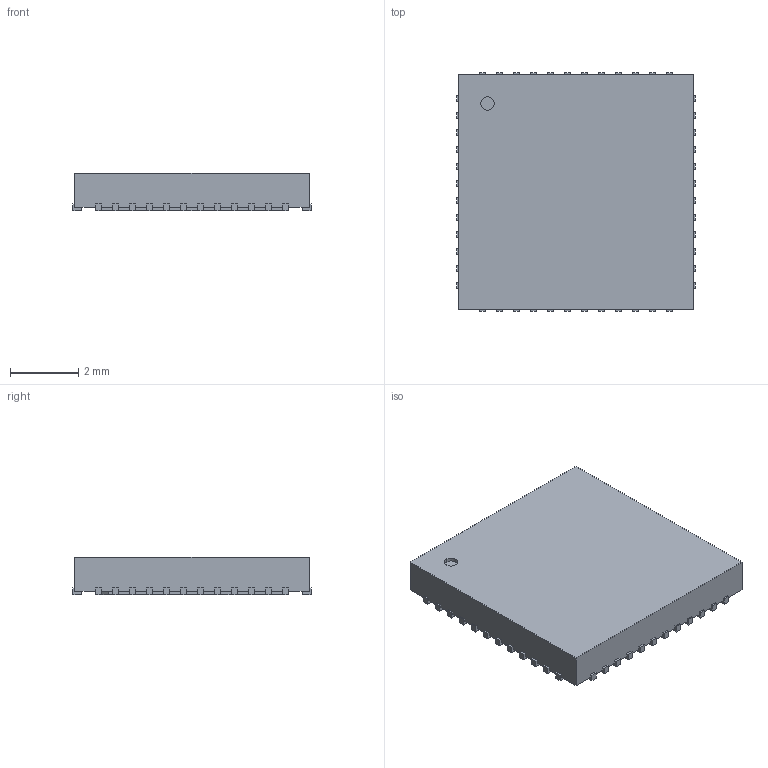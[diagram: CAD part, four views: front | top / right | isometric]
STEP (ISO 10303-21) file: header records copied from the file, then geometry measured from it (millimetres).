
FILE_DESCRIPTION(('STEP AP214'),'1');
FILE_NAME('QFN-48-1EP_7x7mm_P0.5mm_EP5.3x5.3mm.step.stp','2025-12-22T16:42:18',(' '),(' '),'Spatial InterOp 3D',' ',' ');
FILE_SCHEMA(('AUTOMOTIVE_DESIGN { 1 0 10303 214 1 1 1 1 }'));
Length unit declared in the file: millimetre
Products named in the file (1): QFN_48_1EP_7x7mm_P05mm_EP53x53mm
Bounding box: 7 x 7 x 1.1 mm (x, y, z)
Volume: 50.6 mm3; surface area: 130.4 mm2
Topology: 1 solids, 1 shells, 303 faces, 897 edges, 598 vertices
Faces by surface type: plane 301, cylinder 2
Entity records: 12356 total; most frequent: CARTESIAN_POINT 1799, ORIENTED_EDGE 1794, DIRECTION 1509, EDGE_CURVE 897, LINE 893, VECTOR 893, VERTEX_POINT 598, AXIS2_PLACEMENT_3D 308
